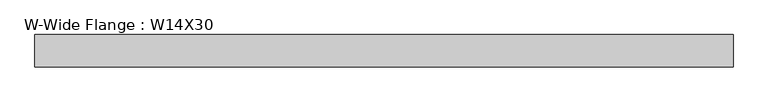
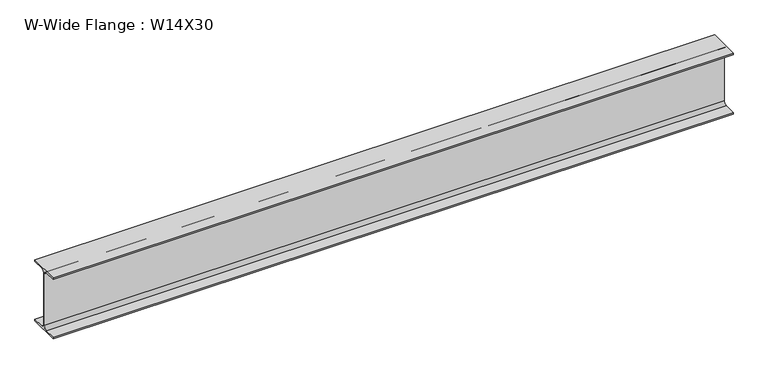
"""IFC4 building model written with IfcOpenShell, lengths in millimetres: beam geometry, W-Wide Flange : W14X30."""

from ifc_helpers import new_model, si_unit, point, frame, frame_2d, origin, place, context, project, spatial, polyline, circle_curve, trimmed, segment, composite_curve, outline, extrude, source, transform, mapped, element, save


def w_wide_flange_w14x30_c79a449a(model_context):
    return source(origin(), model_context, "Body", "SweptSolid", [
        extrude(outline(composite_curve([segment(polyline([(85.471, -165.481), (85.471, -175.26), (-85.471, -175.26), (-85.471, -165.481), (-22.225, -165.481)]), True, "CONTINUOUS"), segment(trimmed(circle_curve(frame_2d((-22.225, -146.685)), 18.796), [point((-22.225, -165.481))], [point((-3.429, -146.685))], True, "CARTESIAN"), True, "CONTINUOUS"), segment(polyline([(-3.429, -146.685), (-3.429, 146.685)]), True, "CONTINUOUS"), segment(trimmed(circle_curve(frame_2d((-22.225, 146.685)), 18.796), [point((-3.429, 146.685))], [point((-22.225, 165.481))], True, "CARTESIAN"), True, "CONTINUOUS"), segment(polyline([(-22.225, 165.481), (-85.471, 165.481), (-85.471, 175.26), (85.471, 175.26), (85.471, 165.481), (22.225, 165.481)]), True, "CONTINUOUS"), segment(trimmed(circle_curve(frame_2d((22.225, 146.685)), 18.796), [point((22.225, 165.481))], [point((3.429, 146.685))], True, "CARTESIAN"), True, "CONTINUOUS"), segment(polyline([(3.429, 146.685), (3.429, -146.685)]), True, "CONTINUOUS"), segment(trimmed(circle_curve(frame_2d((22.225, -146.685)), 18.796), [point((3.429, -146.685))], [point((22.225, -165.481))], True, "CARTESIAN"), True, "CONTINUOUS"), segment(polyline([(22.225, -165.481), (85.471, -165.481)]), True, "CONTINUOUS")], self_intersect=False)), frame((-1840.8101826, 0.0, 0.0), z_axis=(1.0, 0.0, 0.0), x_axis=(0.0, 1.0, 0.0)), (0.0, 0.0, 1.0), 3681.6203653),
    ])


if __name__ == "__main__":
    model = new_model("IFC4")
    model_context = context("Model", 3, world=origin())
    ifc_project = project(units=[si_unit("LENGTHUNIT", "METRE", prefix="MILLI")], contexts=[model_context])
    site = spatial("IfcSite", under=ifc_project)
    building = spatial("IfcBuilding", under=site)
    placement = place(None, origin())
    w_wide_flange_w14x30_shape = w_wide_flange_w14x30_c79a449a(model_context)
    element("IfcBeam", 1, ObjectType="W-Wide Flange : W14X30", at=placement, inside=building, context=model_context, shape_type="MappedRepresentation", body=[
        mapped(w_wide_flange_w14x30_shape, transform((0.0, 0.0, 0.0), x_axis=(1.0, 0.0, 0.0), y_axis=(0.0, 1.0, 0.0), z_axis=(0.0, 0.0, 1.0))),
    ])
    save(model, "model.ifc")
